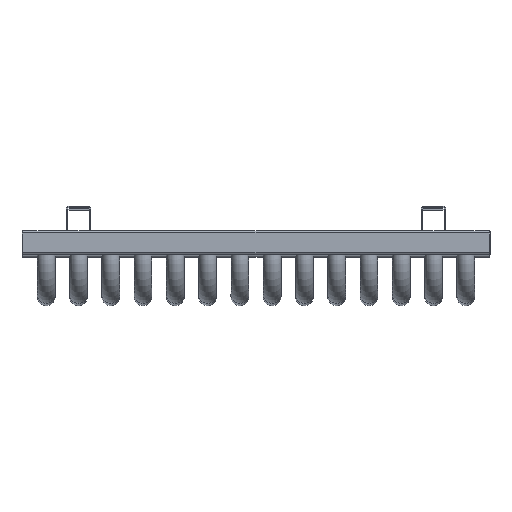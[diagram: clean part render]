
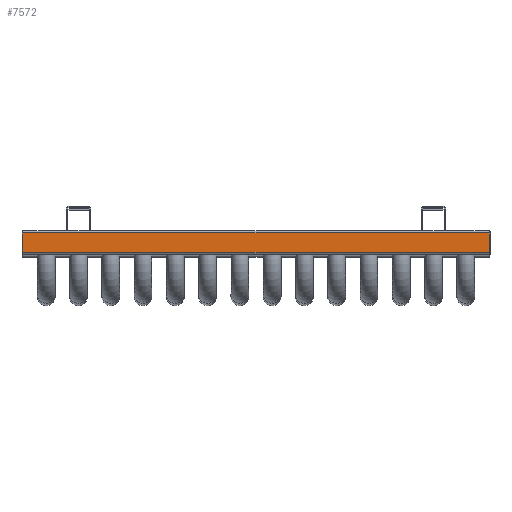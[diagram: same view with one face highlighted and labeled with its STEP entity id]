
A CAD part, top view. The second image highlights one B-rep face of the part: STEP entity #7572.
In plain terms, the highlighted planar face has unit normal (0, 0, 1).
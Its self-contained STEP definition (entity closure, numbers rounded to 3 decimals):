
#3825=CARTESIAN_POINT('',(-289.,-12.,1800.));
#3826=VERTEX_POINT('',#3825);
#3893=CARTESIAN_POINT('',(-289.,12.,1800.));
#3894=VERTEX_POINT('',#3893);
#3911=CARTESIAN_POINT('',(-289.,-12.,1800.));
#3912=DIRECTION('',(0.0,1.0,0.0));
#3913=VECTOR('',#3912,24.);
#3914=LINE('',#3911,#3913);
#3915=EDGE_CURVE('',#3826,#3894,#3914,.T.);
#4056=CARTESIAN_POINT('',(289.,12.,1800.));
#4057=VERTEX_POINT('',#4056);
#4065=CARTESIAN_POINT('',(289.,-12.,1800.));
#4066=VERTEX_POINT('',#4065);
#4067=CARTESIAN_POINT('',(289.,12.,1800.));
#4068=DIRECTION('',(0.0,-1.0,0.0));
#4069=VECTOR('',#4068,24.0);
#4070=LINE('',#4067,#4069);
#4071=EDGE_CURVE('',#4057,#4066,#4070,.T.);
#7536=CARTESIAN_POINT('',(289.,12.,1800.));
#7537=DIRECTION('',(-1.0,0.0,0.0));
#7538=VECTOR('',#7537,578.0);
#7539=LINE('',#7536,#7538);
#7540=EDGE_CURVE('',#4057,#3894,#7539,.T.);
#7556=CARTESIAN_POINT('',(288.5,12.,1800.));
#7557=DIRECTION('',(0.0,0.0,1.0));
#7558=DIRECTION('',(-1.0,0.0,0.0));
#7559=AXIS2_PLACEMENT_3D('',#7556,#7557,#7558);
#7560=PLANE('',#7559);
#7561=CARTESIAN_POINT('',(289.,-12.,1800.));
#7562=DIRECTION('',(-1.0,0.0,0.0));
#7563=VECTOR('',#7562,578.0);
#7564=LINE('',#7561,#7563);
#7565=EDGE_CURVE('',#4066,#3826,#7564,.T.);
#7566=ORIENTED_EDGE('',*,*,#7565,.F.);
#7567=ORIENTED_EDGE('',*,*,#4071,.F.);
#7568=ORIENTED_EDGE('',*,*,#7540,.T.);
#7569=ORIENTED_EDGE('',*,*,#3915,.F.);
#7570=EDGE_LOOP('',(#7566,#7567,#7568,#7569));
#7571=FACE_OUTER_BOUND('',#7570,.T.);
#7572=ADVANCED_FACE('',(#7571),#7560,.T.);
